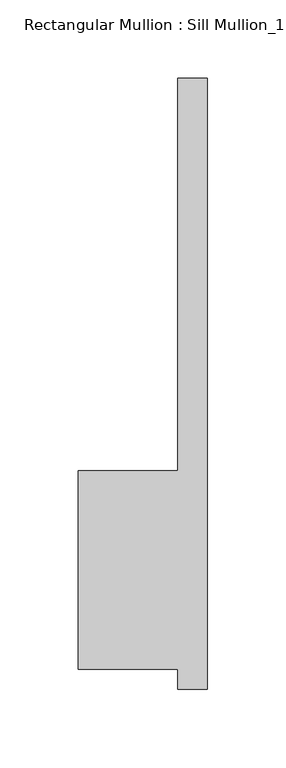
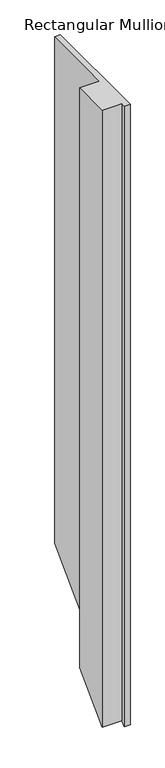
"""IFC4 building model written with IfcOpenShell, lengths in millimetres: member geometry."""

from ifc_helpers import new_model, si_unit, origin, place, context, project, spatial, faceted_brep, source, transform, mapped, element, save


def member_815c3593(model_context):
    return source(origin(), model_context, "Body", "Brep", [
        faceted_brep([(-82.55, 50.8, 0.0), (-82.55, -76.2, 0.0), (-19.05, -76.2, 0.0), (-19.05, -88.9, 0.0), (0.0, -88.9, 0.0), (0.0, 301.625, 0.0), (-19.05, 301.625, 0.0), (-19.05, 50.8, 0.0), (-82.55, 50.8, -1984.375), (-82.55, -76.2, -2111.375), (-19.05, -76.2, -2111.375), (-19.05, -88.9, -2124.075), (0.0, -88.9, -2124.075), (0.0, 301.625, -1733.55), (-19.05, 301.625, -1733.55), (-19.05, 50.8, -1984.375)], [[[0, 1, 2, 3, 4, 5, 6, 7]], [[1, 0, 8, 9]], [[2, 1, 9, 10]], [[3, 2, 10, 11]], [[4, 3, 11, 12]], [[5, 4, 12, 13]], [[6, 5, 13, 14]], [[7, 6, 14, 15]], [[0, 7, 15, 8]], [[8, 15, 14, 13, 12, 11, 10, 9]]]),
    ])


if __name__ == "__main__":
    model = new_model("IFC4")
    model_context = context("Model", 3, world=origin())
    ifc_project = project(units=[si_unit("LENGTHUNIT", "METRE", prefix="MILLI")], contexts=[model_context])
    site = spatial("IfcSite", under=ifc_project)
    building = spatial("IfcBuilding", under=site)
    placement = place(None, origin())
    member_shape = member_815c3593(model_context)
    element("IfcMember", 1, ObjectType="Rectangular Mullion : Sill Mullion_15\" thick wall", at=placement, inside=building, context=model_context, shape_type="MappedRepresentation", body=[
        mapped(member_shape, transform((0.0, 0.0, 0.0), x_axis=(1.0, 0.0, 0.0), y_axis=(0.0, 1.0, 0.0), z_axis=(0.0, 0.0, 1.0))),
    ])
    save(model, "model.ifc")
